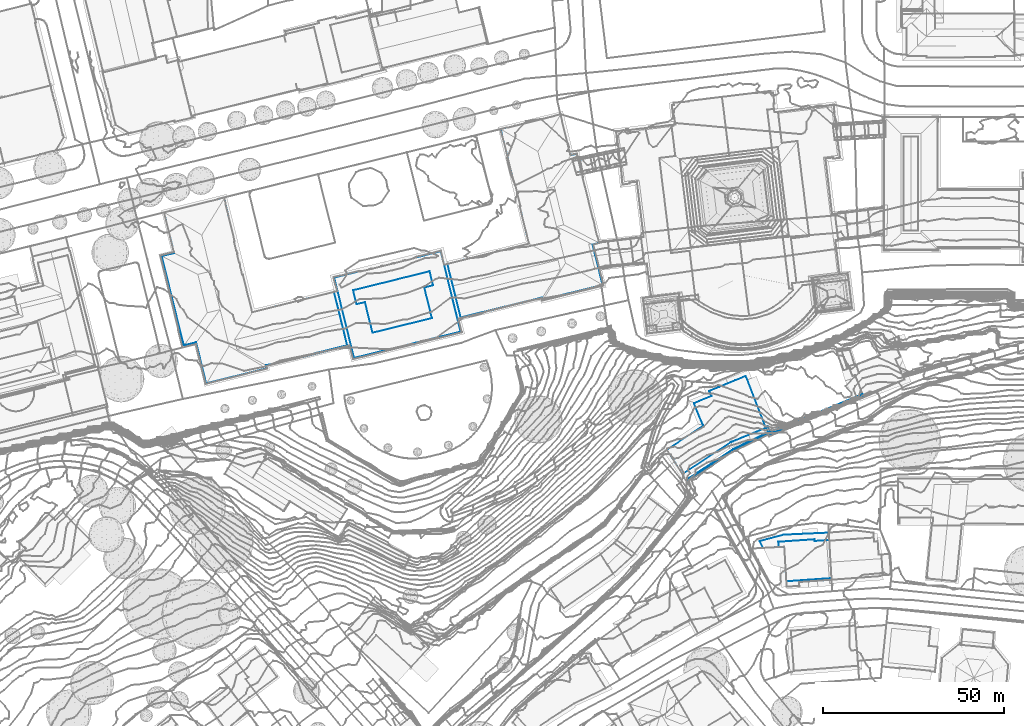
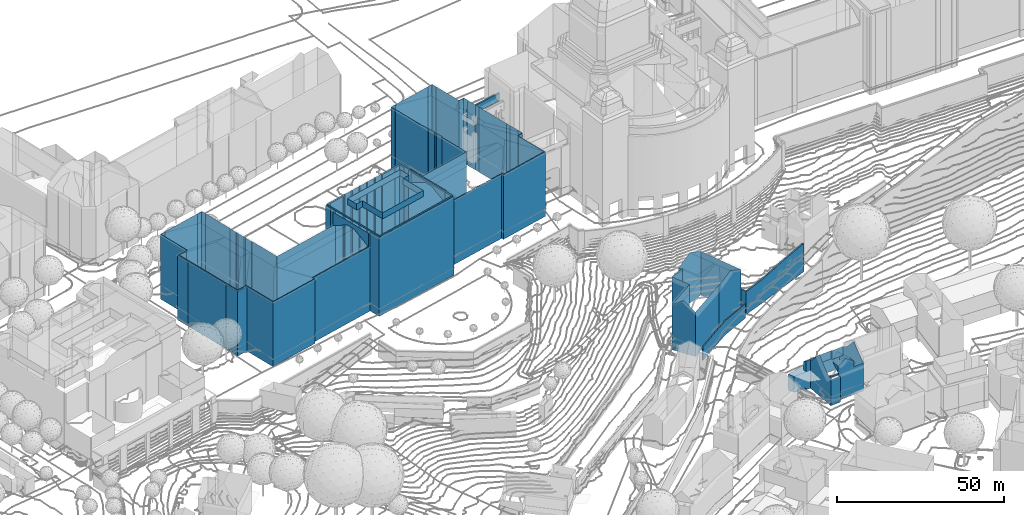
# Not in any storey, part 52 of 477: 4 walls.
"""IFC4 building model written with IfcOpenShell, lengths in metres."""

from ifc_helpers import new_model, si_unit, frame, origin_with_axes, place, context, subcontext, project, spatial, polygons, element, save


model = new_model("IFC4")

# Units and contexts
model_context = context("Model", 3, precision=1e-05, world=origin_with_axes())
body_context = subcontext(model_context, "Body", "Model", "MODEL_VIEW")
ifc_project = project(units=[si_unit("AREAUNIT", "SQUARE_METRE"), si_unit("LENGTHUNIT", "METRE")], contexts=[model_context])

# Sites, building
site_1_placement = place(None, origin_with_axes())
site_1 = spatial("IfcSite", under=ifc_project, at=site_1_placement, Name="Topoexport Site")
site_2_placement = place(site_1_placement, origin_with_axes())
site_2 = spatial("IfcSite", under=site_1, at=site_2_placement, Name="TPX_BUILDINGS")
building_1_placement = place(site_2_placement, frame((211.8297320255, 101.9383160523, 526.7541), z_axis=(0.0, 0.0, 1.0), x_axis=(1.0, 0.0, 0.0)))
building_1 = spatial("IfcBuilding", under=site_2, at=building_1_placement, Name="Building 18", CompositionType="ELEMENT")

# Wall
wall_1_placement = place(None, frame((211.8297320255, 101.9383160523, 526.7541), z_axis=(0.0, 0.0, 1.0), x_axis=(1.0, 0.0, 0.0)))
element("IfcWall", 1, at=wall_1_placement, inside=building_1, Name="Wall 11", context=body_context, shape_type="Tessellation", body=[
    polygons([(330.2320000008, 220.5643999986, -16.7574), (336.4900000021, 222.9530999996, -16.7574), (330.2320000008, 220.5643999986, -8.4892), (329.9260000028, 219.8671999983, -16.7574), (329.8200000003, 220.1338, -13.0867), (329.9260000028, 219.8671999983, -8.4892), (329.6909999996, 220.4560000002, -13.0867), (329.8200000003, 220.1338, -16.7574), (329.1080000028, 221.9189000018, -16.7574), (329.1080000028, 221.9189000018, -8.4892), (329.6909999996, 220.4560000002, -16.7574), (329.6119999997, 222.120099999, -16.7574), (329.6119999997, 222.120099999, -8.4892), (336.6920000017, 222.4492000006, -16.7574), (336.6920000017, 222.4492000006, -8.1932), (307.6610000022, 207.3280999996, -18.1852), (307.4640000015, 207.6141999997, -13.3507), (307.6610000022, 207.3280999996, -13.3497), (320.1950000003, 215.5537, -18.1852), (320.1950000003, 215.5537, -13.0867), (307.4640000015, 207.6141999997, -18.1852), (320.0240000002, 215.8564000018, -18.1852), (329.9350000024, 220.1884999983, -16.7574), (329.9350000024, 220.1884999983, -18.1852), (329.7860000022, 220.5009999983, -18.1852), (329.7860000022, 220.5009999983, -16.7574), (320.0240000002, 215.8564000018, -13.0867), (355.8230000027, 231.0771000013, -16.7574), (356.0329999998, 230.5771000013, -6.4134), (355.8230000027, 231.0771000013, -6.4134), (356.0329999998, 230.5771000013, -16.7574), (345.7250000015, 226.2470999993, -7.1543), (345.7250000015, 226.2470999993, -16.7574), (345.5150000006, 226.7470999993, -16.7574), (336.4900000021, 222.9530999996, -8.1932), (345.5150000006, 226.7470999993, -7.1543)], [[[3, 2, 1]], [[6, 5, 4]], [[5, 6, 7]], [[8, 4, 5]], [[7, 10, 9]], [[10, 7, 6]], [[9, 11, 7]], [[13, 3, 12]], [[10, 13, 9]], [[15, 6, 14]], [[18, 17, 16]], [[20, 18, 19]], [[17, 22, 21]], [[24, 23, 8]], [[19, 8, 20]], [[8, 19, 24]], [[26, 23, 25]], [[27, 11, 22]], [[11, 26, 25]], [[11, 25, 22]], [[30, 29, 28]], [[29, 32, 31]], [[31, 32, 33]], [[33, 15, 14]], [[15, 33, 32]], [[2, 35, 34]], [[34, 35, 36]], [[36, 30, 28]], [[36, 28, 34]], [[35, 2, 3]], [[3, 1, 12]], [[13, 12, 9]], [[6, 4, 14]], [[17, 21, 16]], [[18, 16, 19]], [[27, 22, 17]], [[8, 5, 20]], [[23, 24, 25]], [[7, 11, 27]], [[29, 31, 28]]]),
])

# Building
building_2_placement = place(site_2_placement, frame((513.5957320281, 317.6404160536, 509.4928), z_axis=(0.0, 0.0, 1.0), x_axis=(1.0, 0.0, 0.0)))
building_2 = spatial("IfcBuilding", under=site_2, at=building_2_placement, Name="Building 116", CompositionType="ELEMENT")

# Wall
wall_2_placement = place(None, frame((513.5957320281, 317.6404160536, 509.4928), z_axis=(0.0, 0.0, 1.0), x_axis=(1.0, 0.0, 0.0)))
element("IfcWall", 2, at=wall_2_placement, inside=building_2, Name="Wall 0", context=body_context, shape_type="Tessellation", body=[
    polygons([(10.0130000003, 6.5868999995, 16.3604), (10.0130000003, 6.5868999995, 0.0), (9.9549999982, 6.7265999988, 0.0), (9.9519999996, 6.7344000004, 16.2454), (0.0, 0.0, 16.3634), (0.0, 0.0, 0.0), (3.1609999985, -4.9375, 17.8613), (2.6699999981, -4.1709000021, 18.5192), (11.7060000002, 16.2216999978, 15.9325), (11.7060000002, 16.2216999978, 0.0), (14.3919999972, 17.3271999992, 17.2913), (14.2579999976, 17.2714999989, 0.0), (18.943, 19.1992000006, 0.0), (16.810999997, 18.3222999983, 18.5142), (12.0810000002, 15.307599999, 15.9365), (12.0859999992, 15.2949999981, 0.0), (11.8929999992, 15.7646999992, 5.9744), (11.9299999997, 15.6747999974, 15.9345), (8.5799999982, 10.0713, 16.2274), (7.4450000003, 12.8290999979, 16.2124), (7.4450000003, 12.8290999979, 0.0), (7.6369999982, 12.9081999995, 0.0), (12.2809999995, 14.8202999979, 0.0), (12.2809999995, 14.8202999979, 16.3294), (9.8909999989, 13.8359999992, 0.0), (17.8409999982, 2.1464999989, 6.2144), (17.7929999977, 2.1259999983, 16.3164), (18.1059999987, 2.2529999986, 16.2684), (17.5299999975, 2.0205000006, 16.3574), (18.0879999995, 2.2460999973, 0.0), (17.5299999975, 2.0205000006, 0.0), (4.3129999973, -6.7373000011, 0.0), (4.3129999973, -6.7373000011, 16.3154), (2.1219999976, -3.3144000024, 0.0), (21.3359999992, 3.5585999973, 17.8973), (22.5590000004, 4.0527999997, 18.5142), (23.8809999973, 4.5859999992, 17.8543), (19.617999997, 2.8642999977, 17.0313), (20.7049999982, 3.3037, 0.0), (21.7850000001, 20.3691999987, 16.0235), (18.8249999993, 19.1513999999, 17.5053), (21.7850000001, 20.3691999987, 0.0), (27.3729999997, 5.9970999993, 16.1094), (27.3729999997, 5.9970999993, 0.0), (24.5729999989, 4.8662, 0.0), (2.1219999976, -3.3144000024, 19.2541), (7.6380000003, 12.9082999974, 16.3574), (9.0689999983, 13.4970999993, 16.3484)], [[[3, 2, 1]], [[3, 1, 4]], [[1, 2, 5]], [[2, 6, 5]], [[8, 5, 7]], [[11, 10, 9]], [[12, 10, 11]], [[11, 13, 12]], [[14, 13, 11]], [[17, 16, 15]], [[9, 17, 18]], [[9, 10, 17]], [[17, 10, 16]], [[19, 3, 4]], [[3, 19, 20]], [[21, 3, 20]], [[21, 20, 22]], [[23, 15, 16]], [[25, 24, 23]], [[28, 27, 26]], [[27, 29, 26]], [[26, 31, 30]], [[33, 7, 32]], [[32, 7, 34]], [[6, 34, 7]], [[32, 31, 29]], [[33, 32, 29]], [[37, 36, 35]], [[30, 38, 28]], [[38, 30, 39]], [[41, 40, 13]], [[40, 42, 13]], [[44, 43, 37]], [[45, 44, 37]], [[39, 45, 37]], [[43, 44, 40]], [[40, 44, 42]], [[46, 5, 8]], [[5, 6, 7]], [[18, 17, 15]], [[47, 22, 20]], [[24, 15, 23]], [[48, 24, 25]], [[22, 47, 48]], [[48, 25, 22]], [[30, 28, 26]], [[29, 31, 26]], [[35, 38, 39]], [[39, 37, 35]], [[41, 13, 14]]]),
])

# Building
building_3_placement = place(site_2_placement, frame((539.2757320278, 292.3553160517, 501.0115), z_axis=(0.0, 0.0, 1.0), x_axis=(1.0, 0.0, 0.0)))
building_3 = spatial("IfcBuilding", under=site_2, at=building_3_placement, Name="Building 117", CompositionType="ELEMENT")

# Wall
wall_3_placement = place(None, frame((539.2757320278, 292.3553160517, 501.0115), z_axis=(0.0, 0.0, 1.0), x_axis=(1.0, 0.0, 0.0)))
element("IfcWall", 3, at=wall_3_placement, inside=building_3, Name="Wall 0", context=body_context, shape_type="Tessellation", body=[
    polygons([(16.5139999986, -10.9443999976, 9.5181), (16.5139999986, -10.9443999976, 11.3619), (16.3579999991, -8.6992000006, 11.3619), (10.5289999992, -9.1026000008, 11.3619), (10.686999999, -11.371100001, 11.8969), (10.686999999, -11.371100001, 9.4991), (10.4959999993, -8.620099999, 11.8969), (10.9379999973, -12.3887000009, -0.6799), (7.430999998, -12.6279999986, 8.8042), (10.9379999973, -12.3887000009, 8.8042), (7.3399999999, -11.1230999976, -0.6799), (19.8090000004, -10.2588, -0.6719), (7.3399999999, -11.1230999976, -0.6719), (15.112999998, 0.0155999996, -0.6719), (19.2049999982, 0.2987999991, 0.0), (15.112999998, 0.0155999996, 0.0), (15.0810000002, 0.4803999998, 5.8745), (15.112999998, 0.0155999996, 5.8745), (15.0810000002, 0.4803999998, 8.8612), (5.1039999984, -0.2100000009, -0.6719), (15.0810000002, 0.4803999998, 0.0), (5.1039999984, -0.2100000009, 0.0), (5.2049999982, -1.6728999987, 0.0), (5.2049999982, -1.6728999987, -0.6719), (0.0, 0.0, 0.0), (6.5359999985, 1.754900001, 5.8745), (0.0, 0.0, 5.8745), (0.9129999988, -1.9081999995, 0.0), (0.9129999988, -1.9081999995, 5.8745), (19.2049999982, 0.2987999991, 9.1271), (15.112999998, 0.0155999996, 9.1272), (15.0810000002, 0.4803999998, -0.6719), (5.1039999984, -0.2100000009, 5.8745), (5.1039999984, -0.2100000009, 8.8612), (5.2049999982, -1.6728999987, 5.8745), (5.2049999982, -1.6728999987, 9.6951), (7.7969999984, -11.6367000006, 8.8042), (7.8519999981, -12.4189999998, 8.8042), (7.7969999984, -11.6367000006, 9.4461), (10.867999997, -11.4239000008, 8.8042), (10.867999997, -11.4239000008, 9.4461), (10.862999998, -11.3583999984, -0.6799), (10.862999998, -11.3583999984, 9.5001), (13.3259999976, -11.1787, 13.7327), (19.8339999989, -10.7012000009, -0.6799), (19.8339999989, -10.7012000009, 9.5291), (11.5989999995, 1.9844000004, 0.0), (11.5989999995, 1.9844000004, 5.8745), (16.0590000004, 2.1865000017, 0.0), (16.0590000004, 2.1865000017, 5.8745), (19.0889999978, 2.3242000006, 0.0), (19.0889999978, 2.3242000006, 5.8745), (6.7630000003, -1.5878999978, 5.8745), (6.7630000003, -1.5878999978, 9.7081), (6.7630000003, -1.5878999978, -0.6719), (19.2049999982, 0.2987999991, 5.8745), (19.3189999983, -1.692400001, 10.261), (19.5439999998, -5.629900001, -0.6719), (19.3189999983, -1.692400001, -0.6719), (19.2049999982, 0.2987999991, -0.6719), (19.5439999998, -5.629900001, 14.5066), (19.7060000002, -8.4677999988, 11.3619), (19.7060000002, -8.4677999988, -0.6719), (19.8090000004, -10.2588, -0.6799), (7.4199999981, -12.4483000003, 8.8042), (7.430999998, -12.6279999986, -0.6799), (7.231999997, -9.3310999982, -0.6719), (7.231999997, -9.3310999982, 11.3619), (6.8220000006, -2.557599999, 10.261), (7.0599999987, -6.4941999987, 14.5066), (7.0599999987, -6.4941999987, -0.6719), (6.8220000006, -2.557599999, -0.6719), (6.5359999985, 1.754900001, 0.0)], [[[3, 2, 1]], [[6, 5, 4]], [[7, 4, 5]], [[10, 9, 8]], [[13, 12, 11]], [[16, 15, 14]], [[19, 18, 17]], [[22, 21, 20]], [[24, 23, 20]], [[22, 20, 23]], [[27, 26, 25]], [[29, 27, 28]], [[31, 30, 18]], [[21, 16, 32]], [[34, 19, 33]], [[36, 34, 35]], [[39, 38, 37]], [[41, 39, 40]], [[43, 40, 42]], [[40, 43, 41]], [[42, 40, 8]], [[10, 8, 40]], [[2, 44, 1]], [[46, 1, 45]], [[42, 45, 1]], [[1, 44, 43]], [[6, 43, 5]], [[43, 42, 1]], [[5, 43, 44]], [[48, 47, 26]], [[47, 48, 49]], [[52, 51, 50]], [[54, 36, 53]], [[35, 55, 53]], [[35, 53, 36]], [[35, 29, 23]], [[28, 23, 29]], [[24, 55, 23]], [[23, 55, 35]], [[56, 51, 52]], [[30, 57, 56]], [[59, 56, 58]], [[15, 59, 60]], [[59, 15, 56]], [[56, 57, 58]], [[62, 57, 61]], [[57, 62, 58]], [[62, 46, 58]], [[58, 46, 63]], [[12, 63, 46]], [[45, 64, 12]], [[12, 46, 45]], [[13, 9, 65]], [[9, 13, 66]], [[11, 66, 13]], [[13, 65, 67]], [[65, 68, 67]], [[68, 70, 69]], [[68, 69, 53]], [[53, 69, 54]], [[72, 71, 53]], [[53, 55, 72]], [[71, 68, 53]], [[68, 71, 67]], [[9, 66, 8]], [[12, 64, 11]], [[15, 60, 14]], [[31, 18, 19]], [[21, 32, 20]], [[26, 73, 25]], [[27, 25, 28]], [[30, 56, 18]], [[16, 14, 32]], [[19, 17, 33]], [[34, 33, 35]], [[39, 37, 40]], [[47, 73, 26]], [[48, 50, 49]], [[51, 49, 50]], [[15, 51, 56]]]),
])

# Building
building_4_placement = place(site_2_placement, frame((373.5987320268, 371.2869160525, 536.8784), z_axis=(0.0, 0.0, 1.0), x_axis=(1.0, 0.0, 0.0)))
building_4 = spatial("IfcBuilding", under=site_2, at=building_4_placement, Name="Building 210", CompositionType="ELEMENT")

# Wall
wall_4_placement = place(None, frame((373.5987320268, 371.2869160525, 536.8784), z_axis=(0.0, 0.0, 1.0), x_axis=(1.0, 0.0, 0.0)))
element("IfcWall", 4, at=wall_4_placement, inside=building_4, Name="Wall 0", context=body_context, shape_type="Tessellation", body=[
    polygons([(57.8669999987, -3.7129000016, 28.7192), (58.368999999, -3.6053999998, 29.2891), (57.8649999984, -3.7060000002, 29.2891), (57.8649999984, -3.7060000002, 0.0229), (58.368999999, -3.6053999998, 0.0229), (48.0639999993, -6.1162, 28.7192), (54.824000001, -4.4598999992, 28.7192), (48.0639999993, -6.1162, 29.2891), (53.5419999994, -28.3251999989, 28.7191), (53.5419999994, -28.3251999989, 29.2891), (82.9759999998, -21.0643999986, 28.7191), (82.9759999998, -21.0643999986, 29.2891), (70.6039999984, -0.5498000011, 28.7192), (77.4970000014, 1.1446000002, 28.7191), (70.6050000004, -0.5516999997, 29.2891), (53.2630000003, -9.6035000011, 29.2891), (74.4100000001, -4.3856999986, 31.5679), (53.2630000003, -9.6035000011, 31.5679), (54.2159999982, -13.4697000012, 29.2891), (54.2159999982, -13.4697000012, 31.5679), (56.5469999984, -12.8955000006, 29.2891), (56.5469999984, -12.8955000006, 31.5679), (58.6330000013, -21.3495999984, 29.2891), (58.6330000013, -21.3495999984, 31.5679), (75.0439999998, -17.2998000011, 29.2891), (75.0439999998, -17.2998000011, 31.5679), (72.9580000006, -8.8467000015, 29.2891), (72.9580000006, -8.8467000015, 31.5679), (75.3640000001, -8.2529000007, 29.2891), (75.3640000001, -8.2529000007, 31.5679), (74.4100000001, -4.3856999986, 29.2891), (110.5980000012, 39.0088, 0.0441), (111.0410000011, 37.2666000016, 0.0441), (110.5980000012, 39.0088, 23.5928), (94.4189999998, 33.1651000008, 0.0441), (93.9910000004, 34.9111999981, 23.5928), (94.4189999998, 33.1651000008, 23.5928), (94.4970000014, 33.182599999, 0.0441), (94.4970000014, 33.182599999, 23.5928), (97.057, 22.7696000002, 0.0441), (97.057, 22.7696000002, 23.5928), (105.5370000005, -12.4990000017, 0.0439), (105.3570000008, -11.7714999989, 23.5926), (105.5370000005, -12.4990000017, 23.5926), (122.4990000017, -8.316399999, 0.0438), (122.4990000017, -8.316399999, 23.5926), (119.6900000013, 3.0302999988, 0.0439), (119.6900000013, 3.0302999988, 23.5926), (121.2780000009, 3.4239000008, 0.0439), (121.2780000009, 3.4239000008, 23.5926), (116.3379999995, 23.0918000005, 0.044), (116.4059999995, 23.1083999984, 13.2288), (116.3379999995, 23.0918000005, 13.2288), (116.550999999, 23.2813000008, 13.2288), (116.7159999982, 22.5117999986, 19.0282), (116.550999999, 23.2813000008, 19.0282), (116.3040000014, 23.2276000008, 13.2288), (116.3040000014, 23.2276000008, 19.0282), (116.7159999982, 22.5117000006, 13.2288), (116.561999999, 22.4785000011, 19.0282), (115.7430000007, 27.0313000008, 13.2288), (115.8660000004, 26.4629000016, 17.5864), (115.7430000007, 27.0313000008, 17.5864), (128.1629999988, 29.7071000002, 17.5864), (128.2529999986, 29.1319000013, 20.3861), (128.1629999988, 29.7071000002, 20.3861), (101.8869999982, 3.246100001, 23.6796), (101.8660000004, 3.3379000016, 23.7586), (101.8869999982, 3.246100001, 23.8076), (116.3379999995, 23.0918000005, 19.0282), (116.4059999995, 23.1083999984, 23.8358), (116.3379999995, 23.0918000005, 23.8708), (78.0109999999, -0.566399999, -0.0031), (77.938000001, -0.5830000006, 28.7191), (78.0109999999, -0.566399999, 28.7191), (77.5419999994, 1.3183999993, -0.0031), (77.5419999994, 1.3183999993, 28.7192), (75.6510000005, 0.8594000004, -0.0031), (75.6510000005, 0.8594000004, 28.7192), (75.6629999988, 0.7919999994, -0.0031), (75.6629999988, 0.7919999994, 28.7192), (70.5520000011, -0.3955000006, -0.0031), (70.5520000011, -0.3955000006, 28.7192), (70.6039999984, -0.5498000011, -0.0031), (54.7780000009, -4.2939000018, -0.0031), (54.8229999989, -4.4541000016, 0.0229), (54.7780000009, -4.2939000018, 28.7192), (54.824000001, -4.4598999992, -0.0031), (49.7030000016, -5.6123000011, -0.0031), (49.7030000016, -5.6123000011, 28.7192), (49.688000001, -5.5439000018, -0.0031), (49.688000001, -5.5439000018, 28.7192), (47.8020000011, -5.995099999, -0.0031), (47.8020000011, -5.995099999, 28.7192), (48.2789999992, -7.9043000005, -0.0031), (48.2789999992, -7.9043000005, 28.7192), (48.3469999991, -7.8944999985, -0.0031), (48.3469999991, -7.8944999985, 28.7192), (51.6810000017, -25.0097000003, 23.5926), (51.6400000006, -24.8467000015, 23.7846), (51.6810000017, -25.0097000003, 28.7191), (50.1359999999, -18.7490000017, 27.0813), (51.6400000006, -24.8467000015, 23.5926), (47.9979999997, -10.0839999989, 23.8266), (47.9979999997, -10.0830000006, 28.7192), (49.4829999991, -16.1035000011, 27.0813), (83.3170000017, -21.2402000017, -0.0031), (53.2219999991, -28.6689000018, 28.7191), (83.3170000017, -21.2402000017, 28.7191), (15.8759999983, 15.6044999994, 0.0), (17.6409999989, 16.0331999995, 23.5927), (15.8759999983, 15.6044999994, 23.5927), (3.7170000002, 0.932599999, 0.0), (1.0240000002, 11.9111000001, 23.5927), (3.7170000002, 0.932599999, 23.5927), (1.0240000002, 11.9111000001, 0.0), (0.0, 0.0, 0.0), (0.0, 0.0, 23.5927), (1.074000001, -4.4052999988, 0.0), (1.074000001, -4.4052999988, 23.5927), (1.1359999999, -4.3847000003, 0.0), (1.1359999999, -4.3847000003, 23.5927), (5.0500000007, -20.6171999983, -0.0001), (5.0500000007, -20.6171999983, 23.5927), (4.9239999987, -20.6572000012, -0.0001), (4.9239999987, -20.6572000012, 23.5927), (6.1000000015, -25.433600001, -0.0001), (6.1000000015, -25.433600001, 23.5927), (9.8399999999, -24.5126999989, -0.0001), (9.8399999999, -24.5126999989, 23.5927), (12.5229999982, -35.4891999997, -0.0001), (12.5229999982, -35.4891999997, 23.5927), (29.504999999, -31.2811999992, -0.0001), (29.504999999, -31.2811999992, 23.5926), (29.3319999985, -30.5546999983, -0.0001), (29.3319999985, -30.5546999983, 23.5926), (29.175999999, -30.3662, 23.5926), (29.3900000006, -31.2324000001, 23.7956), (29.175999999, -30.3662, 23.7956), (29.3900000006, -31.2324000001, 23.5926), (12.686999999, -35.3524999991, 23.7956), (3.807, 0.6464999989, 23.5927), (1.0269999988, 11.9111000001, 23.7957), (3.807, 0.6464999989, 23.7957), (0.3960000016, -0.1942999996, 23.5927), (0.3960000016, -0.1942999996, 23.7957), (15.8819999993, 15.5742000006, 23.5927), (17.6469999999, 16.0088, 23.5927), (15.8819999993, 15.5742000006, 23.7957), (12.686999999, -35.3524999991, 23.5927), (9.8859999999, -23.9979999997, 23.7957), (9.8859999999, -23.9979999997, 23.5927), (6.4750000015, -24.8388999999, 23.7957), (6.4750000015, -24.8388999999, 23.5927), (48.879999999, -9.8662, 28.7192), (48.879999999, -9.8662, 23.5937), (48.879999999, -9.8662, -0.0031), (48.6710000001, -9.0918000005, -0.0001), (53.2219999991, -28.6689000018, -0.0031), (52.2740000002, -24.8632999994, 28.7191), (52.2740000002, -24.8632999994, -0.0031), (55.2969999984, -4.3535000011, 29.2891), (54.8229999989, -4.4541000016, 29.2891), (55.2969999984, -4.3535000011, -0.0031), (115.574000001, 26.4706999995, 0.044), (115.5069999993, 26.4541000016, 13.2288), (115.574000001, 26.4706999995, 13.2288), (105.7120000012, -12.2353000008, 23.5926), (105.5549999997, -11.5976000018, 23.7586), (105.7120000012, -12.2353000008, 23.7586), (105.5549999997, -11.5976000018, 23.5926), (82.9970000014, -17.1416000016, 23.5926), (122.2280000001, -8.1611000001, 23.5926), (122.2280000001, -8.1611000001, 23.7586), (97.1779999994, 22.3594000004, 23.5928), (97.1779999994, 22.3594000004, 23.7588), (94.0769999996, 34.9316999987, 23.5928), (94.5029999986, 33.1845999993, 23.7588), (113.3610000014, 27.7842000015, 23.5928), (113.3869999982, 27.6787, 23.7958), (113.3610000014, 27.7842000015, 23.7958), (113.3869999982, 27.6787, 23.5928), (115.1669999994, 28.1182000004, 23.7958), (111.0289999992, 37.2626999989, 23.5928), (110.5949999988, 39.0078000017, 23.7588), (119.4659999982, 3.0342000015, 23.5926), (119.4659999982, 3.0342000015, 23.7956), (121.2650000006, 3.4765999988, 23.5926), (121.2650000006, 3.4765999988, 23.7956), (115.574000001, 26.4706999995, 23.8378), (115.5069999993, 26.4541000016, 20.3861), (115.5069999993, 26.4541000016, 23.8718), (115.574000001, 26.4706999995, 20.3861), (82.3779999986, -17.4393999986, -0.0031), (82.3779999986, -17.4393999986, 28.7191), (78.4219999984, -2.5643999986, 23.8186), (78.4219999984, -2.5643999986, 28.7191), (78.4219999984, -2.5654000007, 0.0439), (77.938000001, -0.5830000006, -0.0031), (78.4239999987, -2.5643999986, -0.0031), (79.3449999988, -2.3348999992, -0.0031), (83.0309999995, -17.2782999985, 0.0439), (79.3449999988, -2.3348999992, 0.0439), (80.8339999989, -8.370099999, 27.0813), (81.4860000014, -11.0166000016, 27.0813), (79.3449999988, -2.3348999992, 28.7191), (83.0309999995, -17.2782999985, 28.7191), (79.3449999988, -2.3348999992, 23.8176), (83.0309999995, -17.2782999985, 23.5926), (82.9970000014, -17.1416000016, 23.7696), (70.1350000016, -0.691399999, -0.0031), (70.1350000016, -0.691399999, 29.2891), (67.561999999, -1.3310000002, -0.0031), (67.5949999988, -1.4305999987, 29.2891), (67.561999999, -1.3310000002, 29.2891), (67.0709999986, -1.4550999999, -0.0031), (67.0709999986, -1.4550999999, 29.2891), (64.5260000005, -2.1865000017, -0.0031), (67.0929999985, -1.5527000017, 29.2891), (64.5260000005, -2.1865000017, 29.2891), (64.4990000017, -2.0888000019, -0.0031), (64.4990000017, -2.0888000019, 29.2891), (64.006000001, -2.2138000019, -0.0031), (64.006000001, -2.2138000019, 29.2891), (61.4560000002, -2.9433000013, -0.0031), (64.0229999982, -2.3027000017, 29.2891), (61.4560000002, -2.9433000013, 29.2891), (61.4290000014, -2.8436999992, -0.0031), (61.4290000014, -2.8436999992, 29.2891), (58.3869999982, -3.6992000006, -0.0031), (58.368999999, -3.6053999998, -0.0031), (55.3229999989, -4.4492000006, -0.0031), (77.9270000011, -0.5859000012, 28.7191), (78.4189999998, -2.5654000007, 29.2891), (77.4970000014, 1.1446000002, 29.2891), (108.8660000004, 38.5166000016, 0.0441), (108.8539999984, 38.5799999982, 23.7588), (108.8660000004, 38.5166000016, 23.7898), (108.8530000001, 38.5839999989, 23.5928), (108.8530000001, 38.5839999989, 0.0441), (95.7369999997, 35.3427999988, 0.0441), (93.9910000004, 34.9111999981, 0.0441), (95.7369999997, 35.3418000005, 23.7588), (94.0769999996, 34.9316999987, 23.7588), (95.7369999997, 35.3427999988, 23.5928), (98.7190000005, 16.9912, 0.0439), (98.0789999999, 19.5478999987, 23.8598), (98.7190000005, 16.9912, 23.8656), (98.6140000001, 16.9600000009, 0.0439), (98.6140000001, 16.9600000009, 23.8106), (99.5309999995, 13.6953000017, 0.0439), (98.8949999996, 16.2657000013, 23.8636), (99.5309999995, 13.6953000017, 23.8656), (99.3209999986, 13.6493999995, 23.7586), (99.3159999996, 13.6475000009, 23.5926), (99.3159999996, 13.6475000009, 0.0439), (120.7749999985, 5.1620999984, 0.0439), (120.8500000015, 5.1719000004, 23.8266), (120.7749999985, 5.1620999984, 23.8636), (120.0170000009, 8.5381000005, 0.0439), (119.9479999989, 8.5117999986, 0.0439), (120.0170000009, 8.5381000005, 23.8276), (119.6469999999, 10.0518000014, 0.0439), (119.6469999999, 10.0518000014, 23.8266), (119.5700000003, 10.0322999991, 0.0439), (119.5700000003, 10.0322999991, 23.8656), (116.7789999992, 21.5967000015, 0.044), (116.7120000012, 21.5782000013, 0.044), (116.7789999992, 21.5967000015, 23.8358), (116.4059999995, 23.1083999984, 19.0282), (116.561999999, 22.4785000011, 13.2288), (116.4059999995, 23.1083999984, 0.044), (115.5069999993, 26.4541999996, 0.044), (115.5229999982, 26.3887000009, 13.2288), (115.5229999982, 26.3887000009, 17.5864), (115.5229999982, 26.3876999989, 20.3861), (128.2529999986, 29.1319000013, 17.5864), (115.8660000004, 26.4629000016, 13.2288), (115.4510000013, 26.9677999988, 13.2288), (115.4510000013, 26.9677999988, 17.5864), (115.4519999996, 26.9668000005, 20.3861), (98.7930000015, 16.246100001, 23.8126), (98.7930000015, 16.246100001, 0.0439), (98.8949999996, 16.2657000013, 0.0439), (97.8040000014, 20.2364000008, 23.8088), (97.8040000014, 20.2364000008, 0.0441), (97.9789999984, 19.5284000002, 23.8098), (97.9789999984, 19.5282999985, 0.0441), (98.0789999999, 19.5478999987, 0.0441), (101.8869999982, 3.246100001, 0.0439), (101.8669999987, 3.3251999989, 23.5926), (101.8660000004, 3.3379000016, 23.5976), (91.5289999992, 0.6983000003, 0.0439), (91.5289999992, 0.6983000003, 23.8046), (113.324000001, 27.7743999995, 23.8138), (113.324000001, 27.7743999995, 0.0441), (115.1460000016, 28.2050999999, 0.0441), (115.1460000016, 28.2050999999, 23.5928), (110.9750000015, 37.246100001, 0.0441), (111.0410000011, 37.2666000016, 23.5928), (110.9750000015, 37.246100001, 23.7918), (111.0289999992, 37.2626999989, 23.7648), (111.0009999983, 37.1396999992, 23.7928), (95.754999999, 35.2725000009, 23.7948), (95.754999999, 35.2725000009, 0.0441), (119.9479999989, 8.5117999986, 23.8646), (116.7120000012, 21.5782000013, 23.8708), (115.1669999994, 28.1182000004, 23.5928), (115.1840000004, 28.0469000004, 23.8378), (121.2520000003, 3.5322999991, 23.8276), (120.8500000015, 5.1719000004, 0.0439), (70.1629999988, -0.7899999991, -0.0031), (70.1629999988, -0.7899999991, 29.2891), (67.5949999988, -1.4305999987, -0.0031), (67.0929999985, -1.5527000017, -0.0031), (64.0229999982, -2.3027000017, -0.0031), (60.932, -2.9618999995, -0.0031), (60.932, -2.9618999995, 29.2891), (60.9580000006, -3.0654000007, -0.0031), (60.9580000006, -3.0654000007, 29.2891), (58.3869999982, -3.6992000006, 29.2891), (57.8669999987, -3.7129000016, -0.0031), (57.8920000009, -3.8203000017, -0.0031), (57.8920000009, -3.8203000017, 29.2891), (55.3229999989, -4.4492000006, 29.2891), (51.6810000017, -25.0097000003, -0.0031), (18.0700000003, 14.2949000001, 0.0), (17.993999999, 14.2714999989, 0.0), (18.0700000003, 14.2949000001, 23.8377), (2.7839999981, 12.2763999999, 0.0), (2.7650000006, 12.3438000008, 23.5927), (2.7650000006, 12.3436999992, 0.0), (2.7839999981, 12.2763999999, 23.8277), (2.7659999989, 12.3418000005, 23.7957), (2.7661000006, 12.3394000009, 23.5927), (2.7851999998, 12.2738000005, 0.0), (2.7666999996, 12.3383999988, 23.7957), (22.6050000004, -5.316399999, -0.0001), (22.8079999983, -5.2685000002, 23.8797), (22.6050000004, -5.316399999, 23.9806), (21.9010000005, -2.0097000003, -0.0001), (22.074000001, -2.7226000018, -0.0001), (21.9010000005, -2.0097000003, 23.9277), (21.8000000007, -2.0331999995, -0.0001), (21.8000000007, -2.0331999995, 23.9777), (21.1649999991, 0.5273999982, 0.0), (21.1649999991, 0.5273999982, 23.9797), (21.0949999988, 1.2646999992, 0.0), (21.2670000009, 0.5507999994, 0.0), (21.0949999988, 1.2646999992, 23.9267), (20.5650000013, 3.8506000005, 0.0), (20.3539999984, 3.8027999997, 0.0), (20.5650000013, 3.8506000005, 23.8767), (17.993999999, 14.2714999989, 23.8767), (21.9699999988, -2.7479999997, 23.9807), (21.9699999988, -2.7479999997, -0.0001), (22.074000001, -2.7226000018, 23.9287), (21.2670000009, 0.5507999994, 23.9287), (20.9930000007, 1.2373000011, 0.0), (20.9930000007, 1.2373000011, 23.9777), (20.3539999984, 3.8027999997, 23.9807), (25.3680000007, -15.6893999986, -0.0001), (22.8079999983, -5.2685000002, -0.0001), (25.3680000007, -15.6893999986, 23.8836), (15.8880000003, 15.5419999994, 23.8117), (15.8880000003, 15.5419999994, 0.0), (17.6409999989, 16.0331999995, 0.0), (17.6680000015, 15.9248000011, 23.8377), (17.6469999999, 16.0088, 23.7957), (25.4609999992, -15.6660000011, 23.8376), (35.7390000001, -13.1083999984, -0.0001), (35.7390000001, -13.1083999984, 23.8266), (47.9979999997, -10.0830000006, -0.0031), (105.3570000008, -11.7714999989, 0.0439), (83.0309999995, -17.2782999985, -0.0031)], [[[3, 2, 1]], [[1, 5, 4]], [[8, 7, 6]], [[10, 8, 9]], [[12, 10, 11]], [[15, 14, 13]], [[18, 17, 16]], [[20, 18, 19]], [[22, 20, 21]], [[24, 22, 23]], [[26, 24, 25]], [[28, 26, 27]], [[30, 28, 29]], [[17, 30, 31]], [[34, 33, 32]], [[37, 36, 35]], [[39, 37, 38]], [[41, 39, 40]], [[44, 43, 42]], [[46, 44, 45]], [[48, 46, 47]], [[50, 48, 49]], [[53, 52, 51]], [[56, 55, 54]], [[58, 56, 57]], [[55, 60, 59]], [[63, 62, 61]], [[66, 65, 64]], [[69, 68, 67]], [[72, 71, 70]], [[75, 74, 73]], [[77, 75, 76]], [[79, 77, 78]], [[81, 79, 80]], [[83, 81, 82]], [[13, 83, 84]], [[87, 86, 85]], [[86, 88, 85]], [[90, 87, 89]], [[92, 90, 91]], [[94, 92, 93]], [[96, 94, 95]], [[98, 96, 97]], [[101, 100, 99]], [[100, 101, 102]], [[103, 99, 100]], [[106, 105, 104]], [[105, 106, 102]], [[105, 102, 101]], [[109, 108, 107]], [[112, 111, 110]], [[115, 114, 113]], [[114, 116, 113]], [[118, 115, 117]], [[120, 118, 119]], [[122, 120, 121]], [[124, 122, 123]], [[126, 124, 125]], [[128, 126, 127]], [[130, 128, 129]], [[132, 130, 131]], [[134, 132, 133]], [[136, 134, 135]], [[139, 138, 137]], [[138, 141, 140]], [[144, 143, 142]], [[146, 144, 145]], [[149, 148, 147]], [[141, 151, 150]], [[151, 153, 152]], [[153, 146, 154]], [[156, 155, 98]], [[156, 158, 157]], [[158, 156, 98]], [[97, 158, 98]], [[160, 159, 108]], [[160, 161, 159]], [[100, 137, 103]], [[163, 162, 7]], [[7, 164, 86]], [[167, 166, 165]], [[170, 169, 168]], [[169, 172, 171]], [[174, 170, 173]], [[176, 39, 175]], [[178, 177, 39]], [[181, 180, 179]], [[180, 183, 182]], [[185, 184, 34]], [[187, 174, 186]], [[189, 186, 188]], [[192, 191, 190]], [[190, 191, 193]], [[195, 107, 194]], [[74, 197, 196]], [[198, 74, 196]], [[74, 198, 199]], [[198, 200, 199]], [[203, 202, 201]], [[206, 205, 204]], [[205, 206, 207]], [[204, 208, 206]], [[210, 207, 209]], [[207, 210, 205]], [[209, 172, 210]], [[212, 13, 211]], [[13, 212, 15]], [[211, 13, 84]], [[215, 214, 213]], [[217, 215, 216]], [[220, 219, 218]], [[222, 220, 221]], [[224, 222, 223]], [[227, 226, 225]], [[229, 227, 228]], [[2, 230, 5]], [[5, 230, 231]], [[162, 232, 164]], [[235, 234, 233]], [[234, 12, 197]], [[11, 197, 12]], [[234, 197, 233]], [[238, 237, 236]], [[236, 237, 239]], [[239, 240, 236]], [[242, 177, 241]], [[177, 242, 36]], [[244, 243, 177]], [[245, 241, 177]], [[177, 243, 245]], [[248, 247, 246]], [[250, 246, 249]], [[253, 252, 251]], [[256, 255, 254]], [[254, 253, 251]], [[254, 251, 256]], [[259, 258, 257]], [[262, 261, 260]], [[264, 260, 263]], [[266, 264, 265]], [[269, 268, 267]], [[270, 71, 60]], [[269, 60, 71]], [[271, 60, 269]], [[272, 271, 267]], [[271, 272, 52]], [[267, 271, 269]], [[166, 274, 273]], [[275, 57, 274]], [[57, 273, 274]], [[191, 192, 276]], [[276, 192, 58]], [[58, 192, 72]], [[58, 72, 70]], [[53, 51, 57]], [[275, 276, 58]], [[65, 62, 277]], [[62, 65, 276]], [[274, 278, 275]], [[275, 62, 276]], [[280, 63, 279]], [[63, 280, 281]], [[63, 66, 64]], [[66, 63, 281]], [[283, 282, 250]], [[250, 249, 283]], [[252, 282, 284]], [[283, 284, 282]], [[286, 285, 175]], [[175, 285, 176]], [[175, 41, 40]], [[175, 40, 286]], [[288, 287, 285]], [[285, 286, 288]], [[247, 287, 289]], [[288, 289, 287]], [[291, 290, 67]], [[256, 290, 291]], [[255, 292, 68]], [[255, 68, 254]], [[255, 256, 291]], [[294, 290, 293]], [[67, 290, 294]], [[67, 294, 69]], [[295, 181, 179]], [[295, 179, 296]], [[298, 297, 296]], [[298, 296, 179]], [[33, 300, 299]], [[299, 300, 184]], [[184, 302, 301]], [[184, 301, 299]], [[299, 301, 303]], [[303, 295, 296]], [[303, 296, 299]], [[305, 304, 238]], [[238, 236, 305]], [[305, 241, 245]], [[245, 243, 304]], [[245, 304, 305]], [[239, 34, 240]], [[185, 239, 237]], [[261, 306, 259]], [[259, 257, 261]], [[268, 307, 266]], [[266, 265, 268]], [[183, 309, 308]], [[297, 308, 279]], [[298, 308, 297]], [[309, 279, 308]], [[309, 281, 280]], [[279, 309, 280]], [[309, 190, 281]], [[167, 165, 279]], [[279, 165, 297]], [[193, 281, 190]], [[311, 258, 310]], [[311, 310, 49]], [[189, 188, 310]], [[50, 49, 188]], [[188, 49, 310]], [[313, 212, 312]], [[214, 313, 314]], [[219, 217, 315]], [[226, 224, 316]], [[318, 229, 317]], [[320, 318, 319]], [[321, 320, 230]], [[323, 1, 322]], [[1, 323, 324]], [[3, 1, 324]], [[1, 4, 322]], [[325, 324, 232]], [[99, 326, 160]], [[136, 135, 99]], [[99, 135, 326]], [[329, 328, 327]], [[332, 331, 330]], [[334, 333, 330]], [[337, 336, 335]], [[114, 331, 116]], [[331, 114, 143]], [[334, 331, 143]], [[340, 339, 338]], [[343, 342, 341]], [[345, 343, 344]], [[347, 345, 346]], [[350, 349, 348]], [[353, 352, 351]], [[354, 353, 328]], [[356, 355, 340]], [[340, 338, 356]], [[356, 342, 357]], [[357, 355, 356]], [[346, 349, 358]], [[358, 347, 346]], [[360, 350, 359]], [[348, 359, 350]], [[352, 361, 360]], [[360, 359, 352]], [[363, 339, 362]], [[364, 362, 339]], [[330, 333, 365]], [[365, 366, 330]], [[367, 111, 327]], [[327, 111, 148]], [[369, 368, 148]], [[148, 329, 327]], [[329, 148, 368]], [[365, 149, 147]], [[365, 147, 366]], [[112, 110, 366]], [[112, 366, 147]], [[362, 364, 370]], [[370, 372, 371]], [[370, 371, 362]], [[371, 104, 373]], [[104, 371, 372]], [[105, 155, 104]], [[373, 156, 157]], [[373, 104, 156]], [[156, 104, 155]], [[374, 43, 202]], [[195, 194, 209]], [[209, 207, 195]], [[196, 197, 206]], [[198, 196, 208]], [[198, 203, 200]], [[206, 208, 196]], [[208, 294, 203]], [[293, 203, 294]], [[203, 198, 208]], [[2, 5, 1]], [[163, 7, 8]], [[8, 6, 9]], [[10, 9, 11]], [[235, 14, 15]], [[17, 31, 16]], [[18, 16, 19]], [[20, 19, 21]], [[22, 21, 23]], [[24, 23, 25]], [[26, 25, 27]], [[28, 27, 29]], [[30, 29, 31]], [[300, 33, 34]], [[36, 242, 35]], [[37, 35, 38]], [[39, 38, 40]], [[43, 374, 42]], [[44, 42, 45]], [[46, 45, 47]], [[48, 47, 49]], [[52, 272, 51]], [[55, 59, 54]], [[56, 54, 57]], [[60, 271, 59]], [[62, 278, 61]], [[65, 277, 64]], [[68, 292, 67]], [[70, 71, 270]], [[74, 199, 73]], [[75, 73, 76]], [[77, 76, 78]], [[79, 78, 80]], [[81, 80, 82]], [[83, 82, 84]], [[5, 231, 322]], [[7, 86, 87]], [[87, 85, 89]], [[90, 89, 91]], [[92, 91, 93]], [[94, 93, 95]], [[96, 95, 97]], [[108, 159, 107]], [[111, 367, 110]], [[115, 113, 117]], [[118, 117, 119]], [[120, 119, 121]], [[122, 121, 123]], [[124, 123, 125]], [[126, 125, 127]], [[128, 127, 129]], [[130, 129, 131]], [[132, 131, 133]], [[134, 133, 135]], [[138, 140, 137]], [[141, 150, 140]], [[143, 114, 142]], [[144, 142, 145]], [[369, 148, 149]], [[151, 152, 150]], [[153, 154, 152]], [[146, 145, 154]], [[139, 137, 100]], [[162, 164, 7]], [[166, 273, 165]], [[169, 171, 168]], [[210, 172, 169]], [[170, 168, 173]], [[178, 39, 176]], [[244, 177, 178]], [[180, 182, 179]], [[183, 308, 182]], [[302, 184, 185]], [[174, 173, 186]], [[187, 186, 189]], [[109, 107, 195]], [[202, 375, 201]], [[214, 314, 213]], [[215, 213, 216]], [[219, 315, 218]], [[220, 218, 221]], [[222, 221, 223]], [[226, 316, 225]], [[227, 225, 228]], [[321, 230, 2]], [[325, 232, 162]], [[233, 14, 235]], [[247, 289, 246]], [[248, 246, 250]], [[252, 284, 251]], [[258, 311, 257]], [[306, 261, 262]], [[262, 260, 264]], [[264, 263, 265]], [[307, 268, 269]], [[58, 57, 275]], [[51, 273, 57]], [[278, 62, 275]], [[63, 61, 279]], [[34, 32, 240]], [[34, 239, 185]], [[212, 211, 312]], [[313, 312, 314]], [[217, 216, 315]], [[224, 223, 316]], [[229, 228, 317]], [[318, 317, 319]], [[320, 319, 230]], [[324, 323, 232]], [[326, 161, 160]], [[101, 99, 160]], [[354, 328, 329]], [[331, 332, 116]], [[339, 363, 338]], [[357, 342, 343]], [[343, 341, 344]], [[345, 344, 346]], [[358, 349, 350]], [[361, 352, 353]], [[353, 351, 328]], [[43, 209, 202]], [[194, 202, 209]], [[375, 202, 194]], [[203, 201, 200]]]),
])

save(model, "model.ifc")
